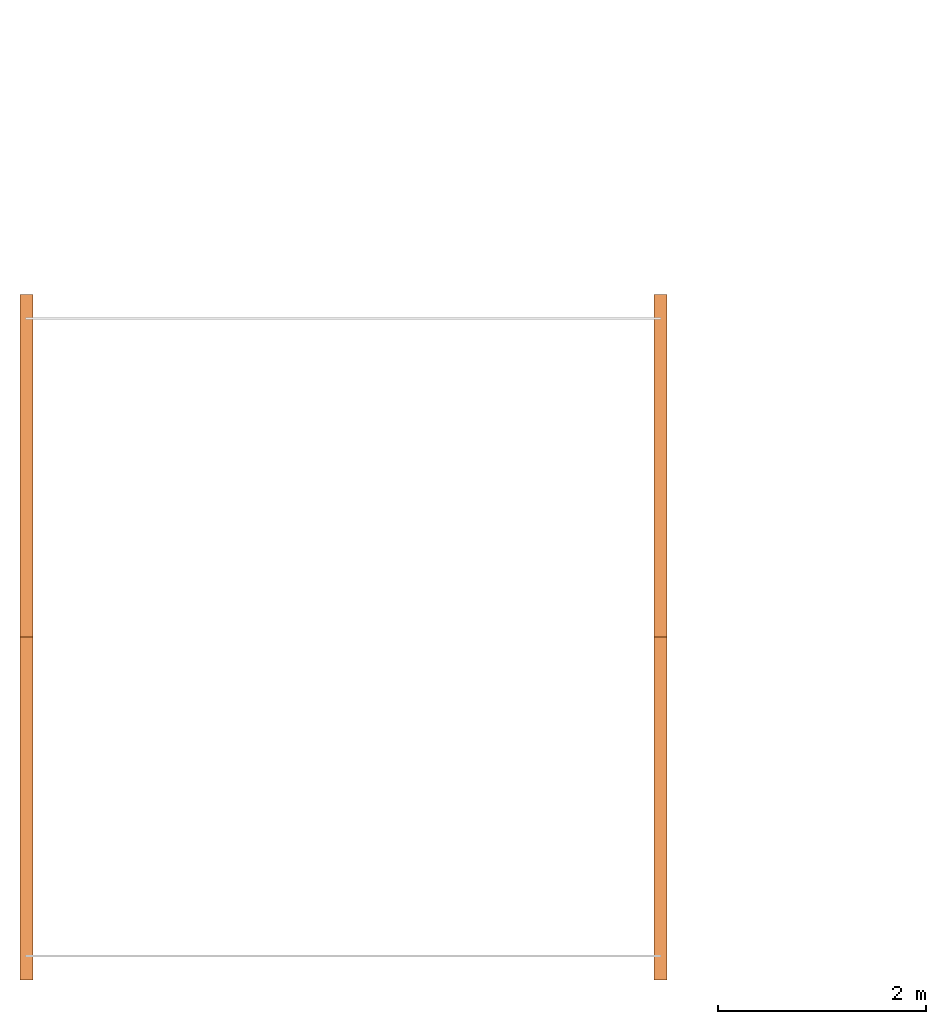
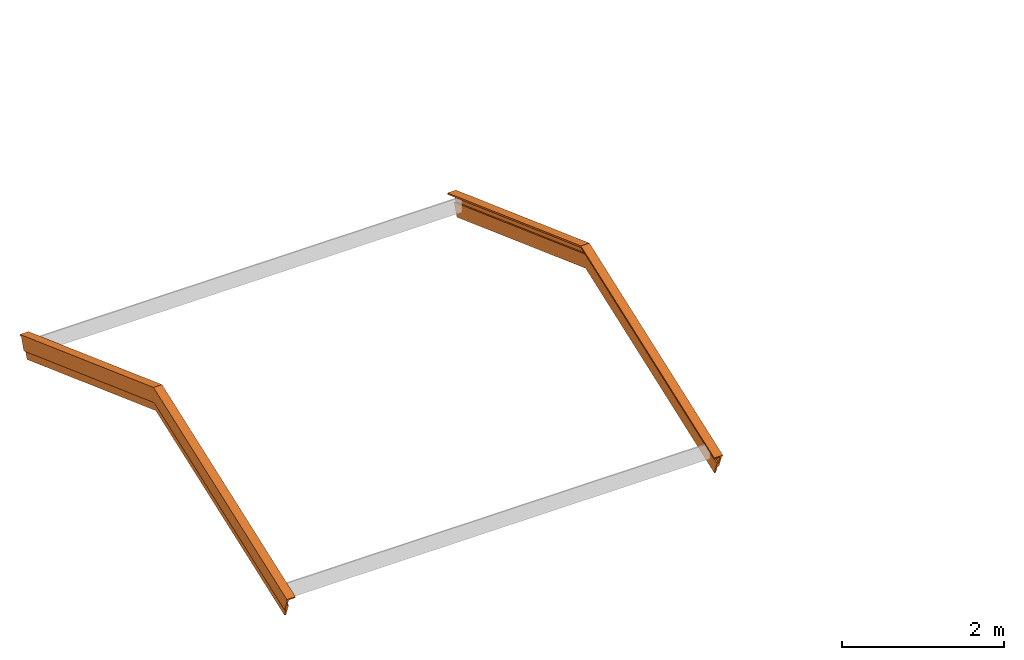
# One storey, part 2 of 2: 1 proxy.
"""IFC2X3 building model written with IfcOpenShell, lengths in millimetres."""

from ifc_helpers import new_model, entity, si_unit, converted_unit, derived_unit, direction, frame, origin, place, context, subcontext, project, spatial, faceted_brep, type_object, element, save


model = new_model("IFC2X3")

# Units and contexts
model_context = context("Model", 3, precision=0.01, world=origin(), true_north=direction((6.123031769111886e-17, 1.0)))
body_context = subcontext(model_context, "Body", "Model", "MODEL_VIEW")
ifc_project = project(units=[si_unit("LENGTHUNIT", "METRE", prefix="MILLI"), si_unit("AREAUNIT", "SQUARE_METRE"), si_unit("VOLUMEUNIT", "CUBIC_METRE"), converted_unit("PLANEANGLEUNIT", "DEGREE", entity("IfcRatioMeasure", 0.017453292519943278), si_unit("PLANEANGLEUNIT", "RADIAN"), dimensions=[0, 0, 0, 0, 0, 0, 0]), si_unit("MASSUNIT", "GRAM", prefix="KILO"), derived_unit("MASSDENSITYUNIT", [(si_unit("MASSUNIT", "GRAM", prefix="KILO"), 1), (si_unit("LENGTHUNIT", "METRE"), -3)]), derived_unit("IONCONCENTRATIONUNIT", [(si_unit("MASSUNIT", "GRAM", prefix="KILO"), 1), (si_unit("LENGTHUNIT", "METRE"), -3)]), derived_unit("MOMENTOFINERTIAUNIT", [(si_unit("LENGTHUNIT", "METRE"), 4)]), si_unit("TIMEUNIT", "SECOND"), si_unit("FREQUENCYUNIT", "HERTZ"), si_unit("THERMODYNAMICTEMPERATUREUNIT", "DEGREE_CELSIUS"), derived_unit("THERMALTRANSMITTANCEUNIT", [(si_unit("MASSUNIT", "GRAM", prefix="KILO"), 1), (si_unit("THERMODYNAMICTEMPERATUREUNIT", "KELVIN"), -1), (si_unit("TIMEUNIT", "SECOND"), -3)]), derived_unit("THERMALCONDUCTANCEUNIT", [(si_unit("MASSUNIT", "GRAM", prefix="KILO"), 1), (si_unit("THERMODYNAMICTEMPERATUREUNIT", "KELVIN"), -1), (si_unit("TIMEUNIT", "SECOND"), -3), (si_unit("LENGTHUNIT", "METRE"), 1)]), derived_unit("VOLUMETRICFLOWRATEUNIT", [(si_unit("LENGTHUNIT", "METRE"), 3), (si_unit("TIMEUNIT", "SECOND"), -1)]), derived_unit("MASSFLOWRATEUNIT", [(si_unit("MASSUNIT", "GRAM", prefix="KILO"), 1), (si_unit("TIMEUNIT", "SECOND"), -1)]), derived_unit("ROTATIONALFREQUENCYUNIT", [(si_unit("TIMEUNIT", "SECOND"), -1)]), si_unit("ELECTRICCURRENTUNIT", "AMPERE"), si_unit("ELECTRICVOLTAGEUNIT", "VOLT"), si_unit("POWERUNIT", "WATT"), si_unit("FORCEUNIT", "NEWTON", prefix="KILO"), si_unit("ILLUMINANCEUNIT", "LUX"), si_unit("LUMINOUSFLUXUNIT", "LUMEN"), si_unit("LUMINOUSINTENSITYUNIT", "CANDELA"), derived_unit("USERDEFINED", [(si_unit("MASSUNIT", "GRAM", prefix="KILO"), -1), (si_unit("LENGTHUNIT", "METRE"), -2), (si_unit("TIMEUNIT", "SECOND"), 3), (si_unit("LUMINOUSFLUXUNIT", "LUMEN"), 1)]), derived_unit("USERDEFINED", [(si_unit("MASSUNIT", "GRAM", prefix="KILO"), 1), (si_unit("TIMEUNIT", "SECOND"), -3), (si_unit("LENGTHUNIT", "METRE"), 3), (si_unit("ELECTRICCURRENTUNIT", "AMPERE"), -2)]), derived_unit("SOUNDPOWERUNIT", [(si_unit("MASSUNIT", "GRAM", prefix="KILO"), 1), (si_unit("TIMEUNIT", "SECOND"), -3), (si_unit("LENGTHUNIT", "METRE"), 2)]), derived_unit("SOUNDPRESSUREUNIT", [(si_unit("MASSUNIT", "GRAM", prefix="KILO"), 1), (si_unit("LENGTHUNIT", "METRE"), -1), (si_unit("TIMEUNIT", "SECOND"), -2)]), derived_unit("LINEARVELOCITYUNIT", [(si_unit("LENGTHUNIT", "METRE"), 1), (si_unit("TIMEUNIT", "SECOND"), -1)]), si_unit("PRESSUREUNIT", "PASCAL"), derived_unit("USERDEFINED", [(si_unit("MASSUNIT", "GRAM", prefix="KILO"), 1), (si_unit("LENGTHUNIT", "METRE"), -2), (si_unit("TIMEUNIT", "SECOND"), -2)]), derived_unit("LINEARFORCEUNIT", [(si_unit("MASSUNIT", "GRAM", prefix="KILO"), 1), (si_unit("TIMEUNIT", "SECOND"), -2)]), derived_unit("PLANARFORCEUNIT", [(si_unit("MASSUNIT", "GRAM", prefix="KILO"), 1), (si_unit("LENGTHUNIT", "METRE"), -1), (si_unit("TIMEUNIT", "SECOND"), -2)]), derived_unit("SPECIFICHEATCAPACITYUNIT", [(si_unit("THERMODYNAMICTEMPERATUREUNIT", "KELVIN"), -1), (si_unit("LENGTHUNIT", "METRE"), 2), (si_unit("TIMEUNIT", "SECOND"), -2)]), derived_unit("HEATINGVALUEUNIT", [(si_unit("LENGTHUNIT", "METRE"), 2), (si_unit("TIMEUNIT", "SECOND"), -2)]), derived_unit("VAPORPERMEABILITYUNIT", [(si_unit("LENGTHUNIT", "METRE"), -1), (si_unit("TIMEUNIT", "SECOND"), 1)]), derived_unit("DYNAMICVISCOSITYUNIT", [(si_unit("MASSUNIT", "GRAM", prefix="KILO"), 1), (si_unit("TIMEUNIT", "SECOND"), -1), (si_unit("LENGTHUNIT", "METRE"), -1)]), derived_unit("THERMALEXPANSIONCOEFFICIENTUNIT", [(si_unit("THERMODYNAMICTEMPERATUREUNIT", "KELVIN"), -1)]), derived_unit("MODULUSOFELASTICITYUNIT", [(si_unit("MASSUNIT", "GRAM", prefix="KILO"), 1), (si_unit("LENGTHUNIT", "METRE"), -1), (si_unit("TIMEUNIT", "SECOND"), -2)]), derived_unit("ISOTHERMALMOISTURECAPACITYUNIT", [(si_unit("LENGTHUNIT", "METRE"), 3), (si_unit("MASSUNIT", "GRAM", prefix="KILO"), -1)]), derived_unit("MOISTUREDIFFUSIVITYUNIT", [(si_unit("TIMEUNIT", "SECOND"), -1), (si_unit("LENGTHUNIT", "METRE"), 2)])], contexts=[model_context])

# Site, building, storey
site_placement = place(None, origin())
site = spatial("IfcSite", under=ifc_project, at=site_placement, Name="IFCSITE", CompositionType="ELEMENT")
building_placement = place(site_placement, origin())
building = spatial("IfcBuilding", under=site, at=building_placement, CompositionType="ELEMENT")
storey_placement = place(building_placement, frame((0.0, 0.0, 6000.0)))
storey = spatial("IfcBuildingStorey", under=building, at=storey_placement, Name="Plan 02", CompositionType="ELEMENT", Elevation=5999.999999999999)

# Proxy
building_element_proxy_type = type_object("IfcBuildingElementProxyType", Name="Fascia:Vindski - 2 bord", PredefinedType="NOTDEFINED")
proxy_placement = place(storey_placement, frame((-60843.513378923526, -15532.372768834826, 353.08647430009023)))
element("IfcBuildingElementProxy", 1, at=proxy_placement, inside=storey, type_object=building_element_proxy_type, Name="Fascia:Vindski - 2 bord", ObjectType="Fascia:Vindski - 2 bord", context=body_context, shape_type="Brep", body=[
    faceted_brep([(6177.0, 48.5668603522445, 186.05913891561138), (6177.0, 116.28684873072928, 0.0), (6199.0, 116.28684873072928, 0.0), (6199.0, 75.24443153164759, 112.76311449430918), (6221.0, 75.24443153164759, 112.76311449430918), (6221.0, 7.524443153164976, 298.8222534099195), (6232.0, 7.524443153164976, 298.8222534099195), (6232.0, 0.0, 319.4954910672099), (6109.0, 0.0, 319.4954910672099), (6109.0, 7.524443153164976, 298.8222534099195), (6199.0, 7.524443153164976, 298.8222534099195), (6199.0, 48.56686035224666, 186.0591389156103), (6177.0, 3303.447598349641, 1370.7388436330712), (6177.0, 3303.447598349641, 1160.0316446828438), (6199.0, 3303.447598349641, 1160.0316446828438), (6199.0, 3303.447598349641, 1287.732977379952), (6221.0, 3303.447598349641, 1287.732977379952), (6221.0, 3303.447598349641, 1498.4401763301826), (6232.0, 3303.447598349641, 1498.4401763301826), (6232.0, 3303.447598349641, 1521.852087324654), (6109.0, 3303.447598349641, 1521.852087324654), (6109.0, 3303.447598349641, 1498.4401763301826), (6199.0, 3303.447598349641, 1498.4401763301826), (6199.0, 3303.447598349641, 1370.7388436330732), (6177.0, 6558.328336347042, 186.0591389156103), (6199.0, 6558.328336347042, 186.0591389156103), (6199.0, 6599.370753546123, 298.82225340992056), (6109.0, 6599.370753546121, 298.8222534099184), (6109.0, 6606.895196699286, 319.4954910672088), (6232.0, 6606.895196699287, 319.495491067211), (6232.0, 6599.370753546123, 298.82225340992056), (6221.0, 6599.370753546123, 298.82225340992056), (6221.0, 6531.650765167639, 112.76311449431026), (6199.0, 6531.650765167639, 112.76311449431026), (6199.0, 6490.60834796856, 0.0), (6177.0, 6490.60834796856, 0.0)], [[[0, 1, 2, 3, 4, 5, 6, 7, 8, 9, 10, 11]], [[1, 0, 12, 13]], [[2, 1, 13, 14]], [[3, 2, 14, 15]], [[4, 3, 15, 16]], [[5, 4, 16, 17]], [[6, 5, 17, 18]], [[7, 6, 18, 19]], [[8, 7, 19, 20]], [[9, 8, 20, 21]], [[10, 9, 21, 22]], [[11, 10, 22, 23]], [[0, 11, 23, 12]], [[24, 25, 26, 27, 28, 29, 30, 31, 32, 33, 34, 35]], [[13, 12, 24, 35]], [[14, 13, 35, 34]], [[15, 14, 34, 33]], [[16, 15, 33, 32]], [[17, 16, 32, 31]], [[18, 17, 31, 30]], [[19, 18, 30, 29]], [[20, 19, 29, 28]], [[21, 20, 28, 27]], [[22, 21, 27, 26]], [[23, 22, 26, 25]], [[12, 23, 25, 24]]]),
    faceted_brep([(55.0, 6558.328336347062, 186.05913891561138), (55.0, 6490.608347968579, 0.0), (33.0, 6490.608347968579, 0.0), (33.0, 6531.65076516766, 112.76311449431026), (11.0, 6531.65076516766, 112.76311449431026), (11.0, 6599.370753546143, 298.82225340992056), (0.0, 6599.370753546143, 298.82225340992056), (0.0, 6606.895196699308, 319.495491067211), (123.0, 6606.895196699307, 319.495491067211), (123.0, 6599.370753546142, 298.82225340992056), (33.0, 6599.370753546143, 298.82225340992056), (33.0, 6558.328336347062, 186.05913891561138), (55.0, 3303.4475983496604, 1370.7388436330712), (55.0, 3303.4475983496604, 1160.0316446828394), (33.0, 3303.4475983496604, 1160.0316446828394), (33.0, 3303.4475983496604, 1287.7329773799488), (11.0, 3303.4475983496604, 1287.7329773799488), (11.0, 3303.4475983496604, 1498.4401763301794), (0.0, 3303.4475983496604, 1498.4401763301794), (0.0, 3303.4475983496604, 1521.8520873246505), (123.0, 3303.4475983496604, 1521.8520873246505), (123.0, 3303.4475983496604, 1498.4401763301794), (33.0, 3303.4475983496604, 1498.4401763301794), (33.0, 3303.4475983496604, 1370.73884363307), (55.0, 48.566860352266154, 186.0591389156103), (33.0, 48.566860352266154, 186.0591389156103), (33.0, 7.524443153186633, 298.82225340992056), (123.0, 7.524443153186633, 298.82225340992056), (123.0, 0.0, 319.495491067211), (0.0, 0.0, 319.495491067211), (0.0, 7.524443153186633, 298.82225340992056), (11.0, 7.524443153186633, 298.82225340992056), (11.0, 75.24443153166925, 112.76311449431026), (33.0, 75.24443153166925, 112.76311449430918), (33.0, 116.28684873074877, 0.0), (55.0, 116.28684873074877, 0.0)], [[[0, 1, 2, 3, 4, 5, 6, 7, 8, 9, 10, 11]], [[1, 0, 12, 13]], [[2, 1, 13, 14]], [[3, 2, 14, 15]], [[4, 3, 15, 16]], [[5, 4, 16, 17]], [[6, 5, 17, 18]], [[7, 6, 18, 19]], [[8, 7, 19, 20]], [[9, 8, 20, 21]], [[10, 9, 21, 22]], [[11, 10, 22, 23]], [[0, 11, 23, 12]], [[24, 25, 26, 27, 28, 29, 30, 31, 32, 33, 34, 35]], [[13, 12, 24, 35]], [[14, 13, 35, 34]], [[15, 14, 34, 33]], [[16, 15, 33, 32]], [[17, 16, 32, 31]], [[18, 17, 31, 30]], [[19, 18, 30, 29]], [[20, 19, 29, 28]], [[21, 20, 28, 27]], [[22, 21, 27, 26]], [[23, 22, 26, 25]], [[12, 23, 25, 24]]]),
])

save(model, "model.ifc")
